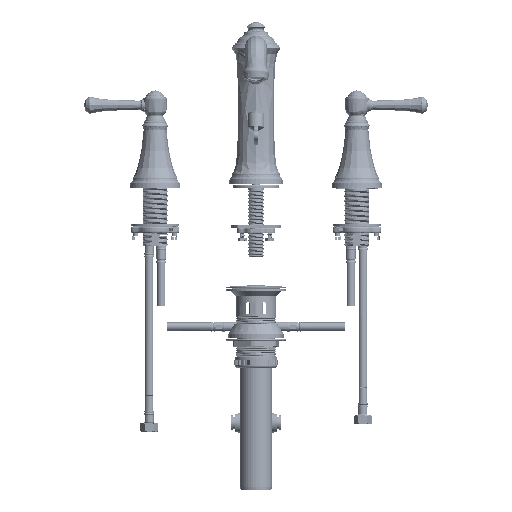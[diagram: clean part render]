
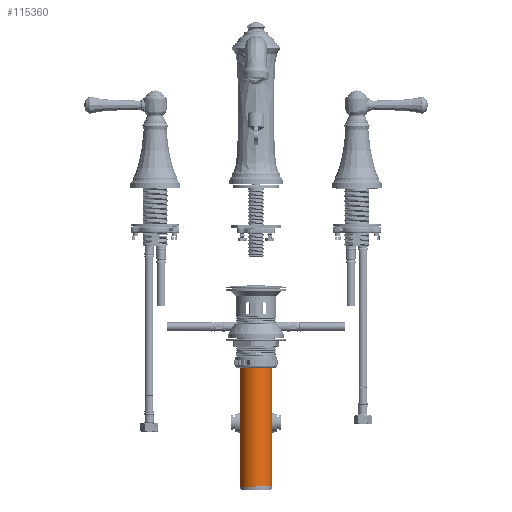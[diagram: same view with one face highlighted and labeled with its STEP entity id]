
A CAD part, top view. The second image highlights one B-rep face of the part: STEP entity #115360.
In plain terms, the highlighted cylindrical face has radius 15.875 mm (diameter 31.75 mm), a partial arc.
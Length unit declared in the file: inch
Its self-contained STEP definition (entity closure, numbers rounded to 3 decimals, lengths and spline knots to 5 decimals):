
#3281 = FACE_OUTER_BOUND ( 'NONE', #121796, .T. ) ;
#4472 = CARTESIAN_POINT ( 'NONE',  ( 0., -7.82567, 5. ) ) ;
#11007 = DIRECTION ( 'NONE',  ( 0., 1., 0. ) ) ;
#11198 = ORIENTED_EDGE ( 'NONE', *, *, #66907, .T. ) ;
#11688 = CARTESIAN_POINT ( 'NONE',  ( 0., -12.54658, 5.625 ) ) ;
#13777 = CYLINDRICAL_SURFACE ( 'NONE', #96447, 0.625 ) ;
#14262 = CARTESIAN_POINT ( 'NONE',  ( 0., -12.54658, 5. ) ) ;
#16061 = VERTEX_POINT ( 'NONE', #76725 ) ;
#16617 = EDGE_CURVE ( 'NONE', #47815, #23793, #58453, .T. ) ;
#19850 = LINE ( 'NONE', #136714, #54245 ) ;
#20948 = DIRECTION ( 'NONE',  ( 1., 0., 0. ) ) ;
#22198 = LINE ( 'NONE', #11688, #31658 ) ;
#22518 = ORIENTED_EDGE ( 'NONE', *, *, #70736, .T. ) ;
#23793 = VERTEX_POINT ( 'NONE', #115672 ) ;
#24975 = DIRECTION ( 'NONE',  ( -1., 0., 0. ) ) ;
#30368 = DIRECTION ( 'NONE',  ( 0., 1., 0. ) ) ;
#30866 = CARTESIAN_POINT ( 'NONE',  ( -0.625, -7.75874, 5. ) ) ;
#31470 = CARTESIAN_POINT ( 'NONE',  ( -0.625, -12.5422, 5. ) ) ;
#31658 = VECTOR ( 'NONE', #129960, 39.37008 ) ;
#32201 = CARTESIAN_POINT ( 'NONE',  ( 0., -12.54658, 5.625 ) ) ;
#35488 = CARTESIAN_POINT ( 'NONE',  ( 0., -7.75874, 5. ) ) ;
#39989 = LINE ( 'NONE', #30866, #55669 ) ;
#43901 = LINE ( 'NONE', #127891, #100864 ) ;
#47196 = DIRECTION ( 'NONE',  ( 0., -1., 0. ) ) ;
#47739 = ORIENTED_EDGE ( 'NONE', *, *, #81889, .T. ) ;
#47815 = VERTEX_POINT ( 'NONE', #74895 ) ;
#51856 = DIRECTION ( 'NONE',  ( 0., -1., 0. ) ) ;
#52672 = VERTEX_POINT ( 'NONE', #31470 ) ;
#54245 = VECTOR ( 'NONE', #30368, 39.37008 ) ;
#55669 = VECTOR ( 'NONE', #51856, 39.37008 ) ;
#58453 = CIRCLE ( 'NONE', #116546, 0.625 ) ;
#63571 = CIRCLE ( 'NONE', #101603, 0.625 ) ;
#66303 = DIRECTION ( 'NONE',  ( 0., -1., 0. ) ) ;
#66650 = VERTEX_POINT ( 'NONE', #81598 ) ;
#66907 = EDGE_CURVE ( 'NONE', #66650, #16061, #131187, .T. ) ;
#70736 = EDGE_CURVE ( 'NONE', #52672, #126059, #39989, .T. ) ;
#73617 = ORIENTED_EDGE ( 'NONE', *, *, #122106, .T. ) ;
#74895 = CARTESIAN_POINT ( 'NONE',  ( 0.625, -12.5422, 5. ) ) ;
#76725 = CARTESIAN_POINT ( 'NONE',  ( -0.625, -7.82567, 5. ) ) ;
#80552 = DIRECTION ( 'NONE',  ( 0., 1., 0. ) ) ;
#81598 = CARTESIAN_POINT ( 'NONE',  ( 0.625, -7.82567, 5. ) ) ;
#81889 = EDGE_CURVE ( 'NONE', #126059, #88708, #63571, .T. ) ;
#88708 = VERTEX_POINT ( 'NONE', #32201 ) ;
#90569 = CARTESIAN_POINT ( 'NONE',  ( -0.625, -12.54658, 5. ) ) ;
#95771 = ORIENTED_EDGE ( 'NONE', *, *, #122052, .T. ) ;
#96447 = AXIS2_PLACEMENT_3D ( 'NONE', #35488, #66303, #24975 ) ;
#98631 = ORIENTED_EDGE ( 'NONE', *, *, #116843, .F. ) ;
#100864 = VECTOR ( 'NONE', #11007, 39.37008 ) ;
#101603 = AXIS2_PLACEMENT_3D ( 'NONE', #14262, #80552, #124600 ) ;
#104954 = DIRECTION ( 'NONE',  ( 0., -1., 0. ) ) ;
#109119 = ORIENTED_EDGE ( 'NONE', *, *, #16617, .F. ) ;
#110157 = DIRECTION ( 'NONE',  ( 1., 0., 0. ) ) ;
#115360 = ADVANCED_FACE ( 'NONE', ( #3281 ), #13777, .T. ) ;
#115482 = AXIS2_PLACEMENT_3D ( 'NONE', #4472, #47196, #110157 ) ;
#115672 = CARTESIAN_POINT ( 'NONE',  ( 0., -12.5422, 5.625 ) ) ;
#116546 = AXIS2_PLACEMENT_3D ( 'NONE', #116832, #104954, #20948 ) ;
#116832 = CARTESIAN_POINT ( 'NONE',  ( 0., -12.5422, 5. ) ) ;
#116843 = EDGE_CURVE ( 'NONE', #52672, #16061, #19850, .T. ) ;
#121796 = EDGE_LOOP ( 'NONE', ( #98631, #22518, #47739, #95771, #109119, #73617, #11198 ) ) ;
#122052 = EDGE_CURVE ( 'NONE', #88708, #23793, #22198, .T. ) ;
#122106 = EDGE_CURVE ( 'NONE', #47815, #66650, #43901, .T. ) ;
#124600 = DIRECTION ( 'NONE',  ( 0., 0., -1. ) ) ;
#126059 = VERTEX_POINT ( 'NONE', #90569 ) ;
#127891 = CARTESIAN_POINT ( 'NONE',  ( 0.625, -12.5422, 5. ) ) ;
#129960 = DIRECTION ( 'NONE',  ( 0., 1., 0. ) ) ;
#131187 = CIRCLE ( 'NONE', #115482, 0.625 ) ;
#136714 = CARTESIAN_POINT ( 'NONE',  ( -0.625, -12.5422, 5. ) ) ;
